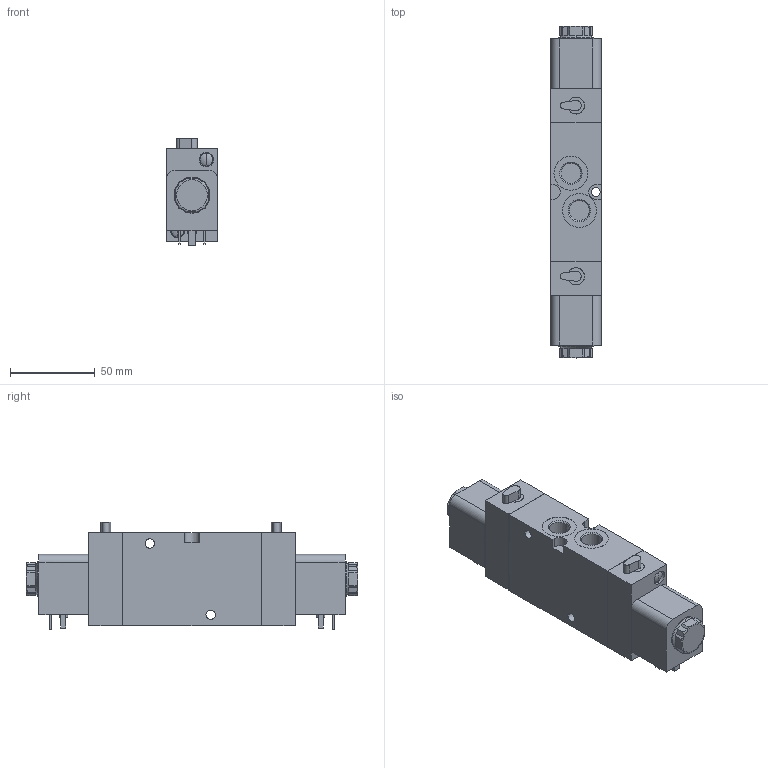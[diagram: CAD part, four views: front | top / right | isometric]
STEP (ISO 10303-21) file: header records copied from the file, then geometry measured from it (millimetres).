
FILE_DESCRIPTION((''),'2;1');
FILE_NAME('5776272220','2015-04-07T',('mla1hc'),(''),'PRO/ENGINEER BY PARAMETRIC TECHNOLOGY CORPORATION, 2011490','PRO/ENGINEER BY PARAMETRIC TECHNOLOGY CORPORATION, 2011490','');
FILE_SCHEMA(('AUTOMOTIVE_DESIGN_CC2 { 1 2 10303 214 -1 1 5 2 }'));
Length unit declared in the file: millimetre
Products named in the file (1): 5776272220
Bounding box: 30 x 196 x 63.5 mm (x, y, z)
Volume: 258119 mm3; surface area: 38482.6 mm2
Topology: 1 solids, 1 shells, 230 faces, 562 edges, 358 vertices
Faces by surface type: plane 140, cylinder 52, cone 22, sphere 8, torus 8
Entity records: 7153 total; most frequent: CARTESIAN_POINT 1682, DIRECTION 1144, ORIENTED_EDGE 1108, EDGE_CURVE 554, AXIS2_PLACEMENT_3D 404, VERTEX_POINT 358, VECTOR 336, LINE 336
